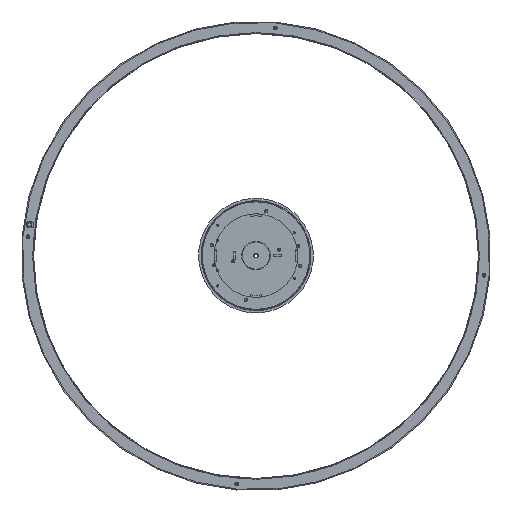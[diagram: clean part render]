
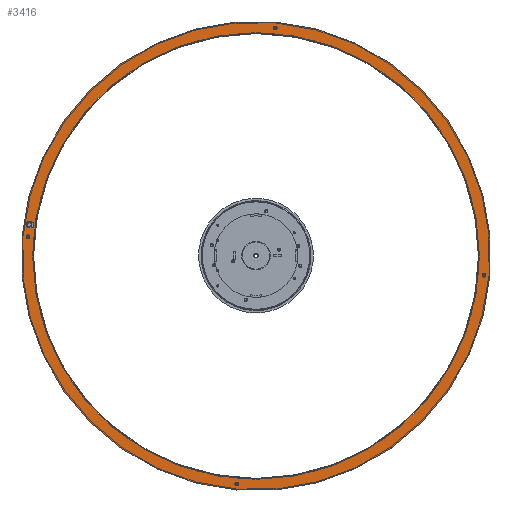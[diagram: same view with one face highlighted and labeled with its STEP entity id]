
A CAD part, top view. The second image highlights one B-rep face of the part: STEP entity #3416.
In plain terms, the highlighted planar face has unit normal (0, 0, 1).
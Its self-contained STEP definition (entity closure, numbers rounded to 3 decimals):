
#38 = DIRECTION ( 'NONE',  ( -0.085, -0.996, 0. ) ) ;
#86 = FACE_OUTER_BOUND ( 'NONE', #2735, .T. ) ;
#133 = DIRECTION ( 'NONE',  ( 0., 0., 1. ) ) ;
#163 = CARTESIAN_POINT ( 'NONE',  ( 477.464, -38.385, -498.5 ) ) ;
#186 = ORIENTED_EDGE ( 'NONE', *, *, #6795, .T. ) ;
#213 = CARTESIAN_POINT ( 'NONE',  ( 0., 0., -498.5 ) ) ;
#275 = DIRECTION ( 'NONE',  ( -0.085, -0.996, 0. ) ) ;
#319 = DIRECTION ( 'NONE',  ( -0.085, -0.996, 0. ) ) ;
#325 = ORIENTED_EDGE ( 'NONE', *, *, #10809, .T. ) ;
#546 = AXIS2_PLACEMENT_3D ( 'NONE', #10389, #10327, #2868 ) ;
#626 = EDGE_LOOP ( 'NONE', ( #6079, #12756 ) ) ;
#726 = DIRECTION ( 'NONE',  ( -0.085, -0.996, 0. ) ) ;
#1169 = AXIS2_PLACEMENT_3D ( 'NONE', #4450, #9710, #38 ) ;
#1571 = DIRECTION ( 'NONE',  ( -0.085, -0.996, 0. ) ) ;
#1602 = DIRECTION ( 'NONE',  ( 0., 0., 1. ) ) ;
#1629 = CARTESIAN_POINT ( 'NONE',  ( -477.287, 40.477, -498.5 ) ) ;
#1720 = CARTESIAN_POINT ( 'NONE',  ( 477.109, -42.57, -498.5 ) ) ;
#1864 = ORIENTED_EDGE ( 'NONE', *, *, #9317, .F. ) ;
#1905 = EDGE_CURVE ( 'NONE', #8734, #13302, #9448, .T. ) ;
#1964 = DIRECTION ( 'NONE',  ( -0.085, -0.996, 0. ) ) ;
#1990 = CARTESIAN_POINT ( 'NONE',  ( 40.3, 475.194, -498.5 ) ) ;
#2190 = EDGE_CURVE ( 'NONE', #8356, #10725, #2447, .T. ) ;
#2219 = ORIENTED_EDGE ( 'NONE', *, *, #1905, .F. ) ;
#2328 = CARTESIAN_POINT ( 'NONE',  ( 477.287, -40.477, -498.5 ) ) ;
#2422 = CARTESIAN_POINT ( 'NONE',  ( 40.655, 479.379, -498.5 ) ) ;
#2447 = CIRCLE ( 'NONE', #2903, 5.25 ) ;
#2735 = EDGE_LOOP ( 'NONE', ( #325, #186 ) ) ;
#2747 = DIRECTION ( 'NONE',  ( 0., 0., 1. ) ) ;
#2868 = DIRECTION ( 'NONE',  ( -0.085, -0.996, 0. ) ) ;
#2903 = AXIS2_PLACEMENT_3D ( 'NONE', #8926, #7003, #1571 ) ;
#3219 = EDGE_LOOP ( 'NONE', ( #7805, #7349 ) ) ;
#3298 = EDGE_CURVE ( 'NONE', #7583, #11984, #12983, .T. ) ;
#3411 = AXIS2_PLACEMENT_3D ( 'NONE', #4584, #1602, #10802 ) ;
#3416 = ADVANCED_FACE ( 'NONE', ( #7447, #10393, #8406, #9435, #4374, #86, #10531 ), #8482, .T. ) ;
#3436 = CARTESIAN_POINT ( 'NONE',  ( -477.109, 42.57, -498.5 ) ) ;
#3443 = CIRCLE ( 'NONE', #12634, 491.5 ) ;
#3557 = ORIENTED_EDGE ( 'NONE', *, *, #4209, .F. ) ;
#3592 = CARTESIAN_POINT ( 'NONE',  ( 41.534, 489.742, -498.5 ) ) ;
#3703 = CARTESIAN_POINT ( 'NONE',  ( -41.534, -489.742, -498.5 ) ) ;
#3772 = EDGE_CURVE ( 'NONE', #7818, #10212, #4478, .T. ) ;
#3830 = CIRCLE ( 'NONE', #1169, 5.25 ) ;
#4027 = EDGE_CURVE ( 'NONE', #11984, #7583, #12351, .T. ) ;
#4087 = AXIS2_PLACEMENT_3D ( 'NONE', #9188, #8166, #11312 ) ;
#4209 = EDGE_CURVE ( 'NONE', #10725, #8356, #3830, .T. ) ;
#4308 = DIRECTION ( 'NONE',  ( 0., 0., 1. ) ) ;
#4329 = DIRECTION ( 'NONE',  ( -0.085, -0.996, 0. ) ) ;
#4374 = FACE_BOUND ( 'NONE', #9478, .T. ) ;
#4450 = CARTESIAN_POINT ( 'NONE',  ( -474.524, 65.333, -498.5 ) ) ;
#4462 = AXIS2_PLACEMENT_3D ( 'NONE', #7177, #11356, #1964 ) ;
#4478 = CIRCLE ( 'NONE', #11244, 466.5 ) ;
#4584 = CARTESIAN_POINT ( 'NONE',  ( -477.287, 40.477, -498.5 ) ) ;
#4738 = AXIS2_PLACEMENT_3D ( 'NONE', #12713, #7769, #275 ) ;
#4759 = EDGE_LOOP ( 'NONE', ( #1864, #6275 ) ) ;
#5159 = CIRCLE ( 'NONE', #5807, 2.1 ) ;
#5218 = VERTEX_POINT ( 'NONE', #1720 ) ;
#5807 = AXIS2_PLACEMENT_3D ( 'NONE', #2328, #6440, #4329 ) ;
#5895 = EDGE_CURVE ( 'NONE', #12366, #11279, #8863, .T. ) ;
#5971 = EDGE_CURVE ( 'NONE', #10212, #7818, #6901, .T. ) ;
#6079 = ORIENTED_EDGE ( 'NONE', *, *, #3772, .F. ) ;
#6195 = VERTEX_POINT ( 'NONE', #3592 ) ;
#6203 = ORIENTED_EDGE ( 'NONE', *, *, #2190, .F. ) ;
#6236 = AXIS2_PLACEMENT_3D ( 'NONE', #1629, #2747, #12196 ) ;
#6268 = DIRECTION ( 'NONE',  ( -0.085, -0.996, 0. ) ) ;
#6275 = ORIENTED_EDGE ( 'NONE', *, *, #5895, .F. ) ;
#6440 = DIRECTION ( 'NONE',  ( 0., 0., 1. ) ) ;
#6573 = CARTESIAN_POINT ( 'NONE',  ( -474.08, 70.564, -498.5 ) ) ;
#6795 = EDGE_CURVE ( 'NONE', #8006, #6195, #9761, .T. ) ;
#6901 = CIRCLE ( 'NONE', #9313, 466.5 ) ;
#6977 = ORIENTED_EDGE ( 'NONE', *, *, #9524, .F. ) ;
#7003 = DIRECTION ( 'NONE',  ( 0., 0., 1. ) ) ;
#7097 = ORIENTED_EDGE ( 'NONE', *, *, #11526, .F. ) ;
#7177 = CARTESIAN_POINT ( 'NONE',  ( -40.477, -477.287, -498.5 ) ) ;
#7349 = ORIENTED_EDGE ( 'NONE', *, *, #4027, .F. ) ;
#7368 = CIRCLE ( 'NONE', #546, 2.1 ) ;
#7382 = CARTESIAN_POINT ( 'NONE',  ( 0., 0., -498.5 ) ) ;
#7447 = FACE_BOUND ( 'NONE', #4759, .T. ) ;
#7506 = EDGE_LOOP ( 'NONE', ( #7097, #2219 ) ) ;
#7556 = CARTESIAN_POINT ( 'NONE',  ( -40.3, -475.194, -498.5 ) ) ;
#7583 = VERTEX_POINT ( 'NONE', #7635 ) ;
#7635 = CARTESIAN_POINT ( 'NONE',  ( -40.655, -479.379, -498.5 ) ) ;
#7696 = AXIS2_PLACEMENT_3D ( 'NONE', #11337, #133, #6268 ) ;
#7769 = DIRECTION ( 'NONE',  ( 0., 0., 1. ) ) ;
#7805 = ORIENTED_EDGE ( 'NONE', *, *, #3298, .F. ) ;
#7818 = VERTEX_POINT ( 'NONE', #12142 ) ;
#8006 = VERTEX_POINT ( 'NONE', #3703 ) ;
#8166 = DIRECTION ( 'NONE',  ( 0., 0., 1. ) ) ;
#8356 = VERTEX_POINT ( 'NONE', #6573 ) ;
#8406 = FACE_BOUND ( 'NONE', #7506, .T. ) ;
#8416 = CIRCLE ( 'NONE', #6236, 2.1 ) ;
#8482 = PLANE ( 'NONE',  #13438 ) ;
#8647 = CARTESIAN_POINT ( 'NONE',  ( 0., 0., -498.5 ) ) ;
#8734 = VERTEX_POINT ( 'NONE', #2422 ) ;
#8863 = CIRCLE ( 'NONE', #3411, 2.1 ) ;
#8926 = CARTESIAN_POINT ( 'NONE',  ( -474.524, 65.333, -498.5 ) ) ;
#9076 = AXIS2_PLACEMENT_3D ( 'NONE', #11304, #13371, #726 ) ;
#9188 = CARTESIAN_POINT ( 'NONE',  ( 0., 0., -498.5 ) ) ;
#9313 = AXIS2_PLACEMENT_3D ( 'NONE', #10112, #10186, #12507 ) ;
#9317 = EDGE_CURVE ( 'NONE', #11279, #12366, #8416, .T. ) ;
#9429 = DIRECTION ( 'NONE',  ( 0., 0., 1. ) ) ;
#9435 = FACE_BOUND ( 'NONE', #3219, .T. ) ;
#9448 = CIRCLE ( 'NONE', #7696, 2.1 ) ;
#9478 = EDGE_LOOP ( 'NONE', ( #3557, #6203 ) ) ;
#9524 = EDGE_CURVE ( 'NONE', #12772, #5218, #5159, .T. ) ;
#9531 = CARTESIAN_POINT ( 'NONE',  ( -39.421, -464.831, -498.5 ) ) ;
#9710 = DIRECTION ( 'NONE',  ( 0., 0., 1. ) ) ;
#9727 = DIRECTION ( 'NONE',  ( 0., 0., 1. ) ) ;
#9761 = CIRCLE ( 'NONE', #4087, 491.5 ) ;
#9977 = ORIENTED_EDGE ( 'NONE', *, *, #10728, .F. ) ;
#10112 = CARTESIAN_POINT ( 'NONE',  ( 0., 0., -498.5 ) ) ;
#10186 = DIRECTION ( 'NONE',  ( 0., 0., 1. ) ) ;
#10212 = VERTEX_POINT ( 'NONE', #9531 ) ;
#10327 = DIRECTION ( 'NONE',  ( 0., 0., 1. ) ) ;
#10389 = CARTESIAN_POINT ( 'NONE',  ( 477.287, -40.477, -498.5 ) ) ;
#10393 = FACE_BOUND ( 'NONE', #12957, .T. ) ;
#10408 = CARTESIAN_POINT ( 'NONE',  ( -477.464, 38.385, -498.5 ) ) ;
#10531 = FACE_BOUND ( 'NONE', #626, .T. ) ;
#10725 = VERTEX_POINT ( 'NONE', #11283 ) ;
#10728 = EDGE_CURVE ( 'NONE', #5218, #12772, #7368, .T. ) ;
#10802 = DIRECTION ( 'NONE',  ( -0.085, -0.996, 0. ) ) ;
#10809 = EDGE_CURVE ( 'NONE', #6195, #8006, #3443, .T. ) ;
#11244 = AXIS2_PLACEMENT_3D ( 'NONE', #8647, #9727, #319 ) ;
#11279 = VERTEX_POINT ( 'NONE', #10408 ) ;
#11283 = CARTESIAN_POINT ( 'NONE',  ( -474.967, 60.102, -498.5 ) ) ;
#11304 = CARTESIAN_POINT ( 'NONE',  ( -40.477, -477.287, -498.5 ) ) ;
#11312 = DIRECTION ( 'NONE',  ( -0.085, -0.996, 0. ) ) ;
#11337 = CARTESIAN_POINT ( 'NONE',  ( 40.477, 477.287, -498.5 ) ) ;
#11356 = DIRECTION ( 'NONE',  ( 0., 0., 1. ) ) ;
#11526 = EDGE_CURVE ( 'NONE', #13302, #8734, #12833, .T. ) ;
#11620 = DIRECTION ( 'NONE',  ( -0.085, -0.996, 0. ) ) ;
#11627 = DIRECTION ( 'NONE',  ( -0.085, -0.996, 0. ) ) ;
#11984 = VERTEX_POINT ( 'NONE', #7556 ) ;
#12142 = CARTESIAN_POINT ( 'NONE',  ( 39.421, 464.831, -498.5 ) ) ;
#12196 = DIRECTION ( 'NONE',  ( -0.085, -0.996, 0. ) ) ;
#12351 = CIRCLE ( 'NONE', #9076, 2.1 ) ;
#12366 = VERTEX_POINT ( 'NONE', #3436 ) ;
#12507 = DIRECTION ( 'NONE',  ( -0.085, -0.996, 0. ) ) ;
#12634 = AXIS2_PLACEMENT_3D ( 'NONE', #213, #9429, #11620 ) ;
#12713 = CARTESIAN_POINT ( 'NONE',  ( 40.477, 477.287, -498.5 ) ) ;
#12756 = ORIENTED_EDGE ( 'NONE', *, *, #5971, .F. ) ;
#12772 = VERTEX_POINT ( 'NONE', #163 ) ;
#12833 = CIRCLE ( 'NONE', #4738, 2.1 ) ;
#12957 = EDGE_LOOP ( 'NONE', ( #9977, #6977 ) ) ;
#12983 = CIRCLE ( 'NONE', #4462, 2.1 ) ;
#13302 = VERTEX_POINT ( 'NONE', #1990 ) ;
#13371 = DIRECTION ( 'NONE',  ( 0., 0., 1. ) ) ;
#13438 = AXIS2_PLACEMENT_3D ( 'NONE', #7382, #4308, #11627 ) ;
